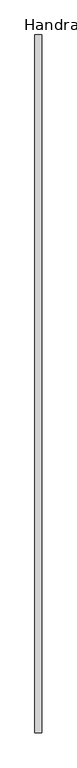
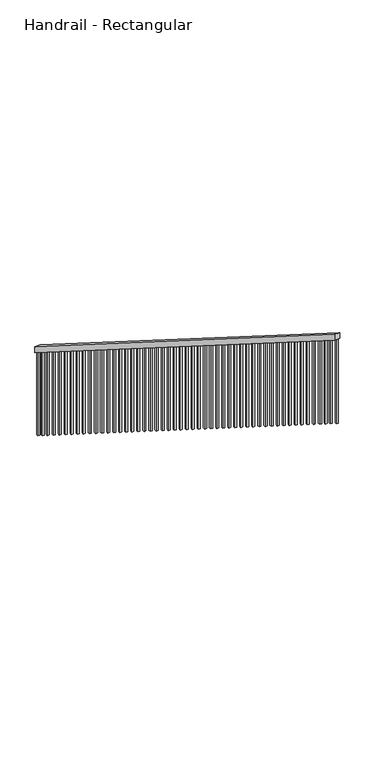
"""IFC4 building model written with IfcOpenShell, lengths in millimetres: railing geometry, Handrail - Rectangular."""

import ifcopenshell
import ifcopenshell.guid

model = None  # the IFC model being written
_history = None  # IfcOwnerHistory: only IFC2X3 demands one
_inside = {}  # id of a spatial element -> (the spatial element, [elements in it])
_under = {}  # id of a project, library or spatial element -> (it, [spatial elements below it])
_declared = {}  # id of a project -> (the project, [libraries it declares])
_typed = {}  # id of a type object -> (the type object, [elements of that type])
_made_of = {}  # id of a material, layer set ... -> (it, [elements and type objects made of it])


def new_model(schema):
    """Start an empty IFC model of exactly this schema.

    Asked for "IFC4X3", IfcOpenShell would pick the latest addendum, in which some entities
    have other attributes; the version numbers below select the first issue.
    IFC2X3 requires an IfcOwnerHistory on every rooted entity: one is made here for all.
    """
    global model, _history
    if schema == "IFC4X3":
        model = ifcopenshell.file(schema_version=(4, 3, 0, 0))
    else:
        model = ifcopenshell.file(schema=schema)
    _inside.clear()
    _under.clear()
    _declared.clear()
    _typed.clear()
    _made_of.clear()
    _history = None
    if model.schema == "IFC2X3":
        org = make("IfcOrganization", Name="unknown")
        user = make(
            "IfcPersonAndOrganization",
            ThePerson=make("IfcPerson", FamilyName="unknown"),
            TheOrganization=org,
        )
        app = make(
            "IfcApplication",
            ApplicationDeveloper=org,
            Version="unknown",
            ApplicationFullName="unknown",
            ApplicationIdentifier="unknown",
        )
        _history = make(
            "IfcOwnerHistory",
            OwningUser=user,
            OwningApplication=app,
            ChangeAction="ADDED",
            CreationDate=0,
        )
    return model


def make(cls, **values):
    """One entity of the class cls with the attributes given. An attribute that is None is left unset."""
    return model.create_entity(
        cls, **{name: value for name, value in values.items() if value is not None}
    )


def rooted(cls, **values):
    """An entity with a GlobalId (a new one), such as an element, a storey or a relation."""
    return make(cls, GlobalId=ifcopenshell.guid.new(), OwnerHistory=_history, **values)


def si_unit(unit_type, name, prefix=None):
    """IfcSIUnit, for example si_unit("LENGTHUNIT", "METRE", prefix="MILLI")."""
    return make("IfcSIUnit", UnitType=unit_type, Prefix=prefix, Name=name)


def assignment(units):
    """IfcUnitAssignment: the units of a project."""
    return None if units is None else make("IfcUnitAssignment", Units=units)


def point(xyz):
    """IfcCartesianPoint."""
    return None if xyz is None else make("IfcCartesianPoint", Coordinates=xyz)


def direction(xyz):
    """IfcDirection."""
    return None if xyz is None else make("IfcDirection", DirectionRatios=xyz)


def frame(location, z_axis=None, x_axis=None):
    """IfcAxis2Placement3D, a coordinate frame: its origin and axes. An axis left out is left unset."""
    return make(
        "IfcAxis2Placement3D",
        Location=point(location),
        Axis=direction(z_axis),
        RefDirection=direction(x_axis),
    )


def origin():
    """The frame at (0, 0, 0) with its axes left unset."""
    return frame((0.0, 0.0, 0.0))


def place(relative_to, where):
    """IfcLocalPlacement: puts the frame where relative to a parent placement (None: the world)."""
    return make(
        "IfcLocalPlacement", PlacementRelTo=relative_to, RelativePlacement=where
    )


def context(
    kind, dimensions, precision=None, world=None, true_north=None, identifier=None
):
    """IfcGeometricRepresentationContext, for example the 3D "Model" context."""
    return make(
        "IfcGeometricRepresentationContext",
        ContextIdentifier=identifier,
        ContextType=kind,
        CoordinateSpaceDimension=dimensions,
        Precision=precision,
        WorldCoordinateSystem=world,
        TrueNorth=true_north,
    )


def project(units=None, contexts=None):
    """IfcProject with its units and contexts."""
    return rooted(
        "IfcProject",
        Name="project",
        RepresentationContexts=contexts,
        UnitsInContext=assignment(units),
    )


def spatial(cls, under=None, at=None, **own):
    """A site, building, storey or space (cls), placed at a placement, below another one or the project."""
    s = rooted(cls, ObjectPlacement=at, **own)
    if under is not None:
        _under.setdefault(under.id(), (under, []))[1].append(s)
    return s


def polyline(points):
    """IfcPolyline through the points."""
    return make("IfcPolyline", Points=[point(p) for p in points])


def outline(outer, holes=None, kind="AREA"):
    """IfcArbitraryClosedProfileDef: a profile drawn as a closed curve; with holes, ...WithVoids."""
    if holes is None:
        return make("IfcArbitraryClosedProfileDef", ProfileType=kind, OuterCurve=outer)
    return make(
        "IfcArbitraryProfileDefWithVoids",
        ProfileType=kind,
        OuterCurve=outer,
        InnerCurves=holes,
    )


def extrude(swept, where, along, depth):
    """IfcExtrudedAreaSolid: the profile swept, set in the frame where, extruded along a direction by depth."""
    return make(
        "IfcExtrudedAreaSolid",
        SweptArea=swept,
        Position=where,
        ExtrudedDirection=direction(along),
        Depth=depth,
    )


def shape(context_of_items, identifier, shape_type, items):
    """IfcShapeRepresentation: the items that make up one representation, for example the "Body"."""
    return make(
        "IfcShapeRepresentation",
        ContextOfItems=context_of_items,
        RepresentationIdentifier=identifier,
        RepresentationType=shape_type,
        Items=items,
    )


def source(mapping_origin, context_of_items, identifier, shape_type, items):
    """IfcRepresentationMap: a shape defined once, which mapped items show again and again."""
    return make(
        "IfcRepresentationMap",
        MappingOrigin=mapping_origin,
        MappedRepresentation=shape(context_of_items, identifier, shape_type, items),
    )


def transform(
    local_origin,
    x_axis=None,
    y_axis=None,
    z_axis=None,
    scale=None,
    scale2=None,
    scale3=None,
    uniform=True,
):
    """IfcCartesianTransformationOperator3D, or its non-uniform kind. x_axis, y_axis, z_axis: its Axis1, 2, 3."""
    if uniform:
        return make(
            "IfcCartesianTransformationOperator3D",
            Axis1=direction(x_axis),
            Axis2=direction(y_axis),
            LocalOrigin=point(local_origin),
            Scale=scale,
            Axis3=direction(z_axis),
        )
    return make(
        "IfcCartesianTransformationOperator3DnonUniform",
        Axis1=direction(x_axis),
        Axis2=direction(y_axis),
        LocalOrigin=point(local_origin),
        Scale=scale,
        Axis3=direction(z_axis),
        Scale2=scale2,
        Scale3=scale3,
    )


def mapped(mapping_source, mapping_target):
    """IfcMappedItem: shows the shape of a source again, moved by a transform."""
    return make(
        "IfcMappedItem", MappingSource=mapping_source, MappingTarget=mapping_target
    )


def made_of(thing, what):
    """Note that an element or type object is made of a material, layer set ...; save() writes the relation."""
    if what is not None:
        _made_of.setdefault(what.id(), (what, []))[1].append(thing)
    return thing


def element(
    cls,
    number,
    at=None,
    inside=None,
    cuts=None,
    type_object=None,
    material=None,
    context=None,
    identifier="Body",
    shape_type=None,
    held_by="IfcProductDefinitionShape",
    body=None,
    shapes=None,
    **own,
):
    """One element of the class cls, such as IfcWall. Its Tag is "e" and its number.

    at: its placement. inside: the storey or other place that contains it. cuts: it is an
    opening in that element (IfcRelVoidsElement). A single representation is given by context,
    identifier, shape_type and body (its items); several are given by shapes. held_by: the class
    of the entity that holds the representations. save() writes the other relations.
    """
    e = rooted(cls, Tag="e%d" % number, ObjectPlacement=at, **own)
    if body is not None:
        shapes = [shape(context, identifier, shape_type, body)]
    if shapes is not None:
        e.Representation = make(held_by, Representations=shapes)
    if inside is not None:
        _inside.setdefault(inside.id(), (inside, []))[1].append(e)
    if cuts is not None:
        rooted(
            "IfcRelVoidsElement", RelatingBuildingElement=cuts, RelatedOpeningElement=e
        )
    if type_object is not None:
        _typed.setdefault(type_object.id(), (type_object, []))[1].append(e)
    return made_of(e, material)


def aggregate(whole, parts):
    """IfcRelAggregates: a whole, such as a stair, and the parts it consists of."""
    return rooted("IfcRelAggregates", RelatingObject=whole, RelatedObjects=parts)


def save(model, path):
    """Write the relations noted so far, then the file.

    IfcRelAggregates (storeys below a building ...), IfcRelContainedInSpatialStructure (elements
    in a storey), IfcRelDefinesByType, IfcRelAssociatesMaterial and IfcRelDeclares: one each for
    every whole, place, type object, material and project.
    """
    for whole, parts in _under.values():
        aggregate(whole, parts)
    for where, things in _inside.values():
        rooted(
            "IfcRelContainedInSpatialStructure",
            RelatedElements=things,
            RelatingStructure=where,
        )
    for kind, things in _typed.values():
        rooted("IfcRelDefinesByType", RelatedObjects=things, RelatingType=kind)
    for what, things in _made_of.values():
        rooted("IfcRelAssociatesMaterial", RelatedObjects=things, RelatingMaterial=what)
    for by, libraries in _declared.values():
        rooted("IfcRelDeclares", RelatingContext=by, RelatedDefinitions=libraries)
    model.write(path)


def handrail_rectangular_a4179571(model_context):
    return source(origin(), model_context, "Body", "SweptSolid", [
        extrude(outline(polyline([(56940.686508, -2261.9368421), (56940.686508, -2322.0204219), (51911.486508, 854.3164202), (51911.486508, 914.4), (56940.686508, -2261.9368421)])), frame((-4966.7747339, 0.0, 0.0), z_axis=(1.0, 0.0, 0.0), x_axis=(0.0, 1.0, 0.0)), (0.0, 0.0, 1.0), 50.8),
        extrude(outline(polyline([(51930.536508, -6.0157895), (51911.486508, -6.0157895), (51911.486508, 854.3164202), (51930.536508, 842.2848412), (51930.536508, -6.0157895)])), frame((-4950.8997339, 0.0, 0.0), z_axis=(1.0, 0.0, 0.0), x_axis=(0.0, 1.0, 0.0)), (0.0, 0.0, 1.0), 19.05),
        extrude(outline(polyline([(52032.136508, -70.1842105), (52013.086508, -70.1842105), (52013.086508, 790.1479991), (52032.136508, 778.1164202), (52032.136508, -70.1842105)])), frame((-4950.8997339, 0.0, 0.0), z_axis=(1.0, 0.0, 0.0), x_axis=(0.0, 1.0, 0.0)), (0.0, 0.0, 1.0), 19.05),
        extrude(outline(polyline([(52111.511508, -120.3157895), (52092.461508, -120.3157895), (52092.461508, 740.0164202), (52111.511508, 727.9848412), (52111.511508, -120.3157895)])), frame((-4950.8997339, 0.0, 0.0), z_axis=(1.0, 0.0, 0.0), x_axis=(0.0, 1.0, 0.0)), (0.0, 0.0, 1.0), 19.05),
        extrude(outline(polyline([(52209.936508, -182.4789474), (52190.886508, -182.4789474), (52190.886508, 677.8532623), (52209.936508, 665.8216833), (52209.936508, -182.4789474)])), frame((-4950.8997339, 0.0, 0.0), z_axis=(1.0, 0.0, 0.0), x_axis=(0.0, 1.0, 0.0)), (0.0, 0.0, 1.0), 19.05),
        extrude(outline(polyline([(52311.536508, -246.6473684), (52292.486508, -246.6473684), (52292.486508, 613.6848412), (52311.536508, 601.6532623), (52311.536508, -246.6473684)])), frame((-4950.8997339, 0.0, 0.0), z_axis=(1.0, 0.0, 0.0), x_axis=(0.0, 1.0, 0.0)), (0.0, 0.0, 1.0), 19.05),
        extrude(outline(polyline([(52413.136508, -310.8157895), (52394.086508, -310.8157895), (52394.086508, 549.5164202), (52413.136508, 537.4848412), (52413.136508, -310.8157895)])), frame((-4950.8997339, 0.0, 0.0), z_axis=(1.0, 0.0, 0.0), x_axis=(0.0, 1.0, 0.0)), (0.0, 0.0, 1.0), 19.05),
        extrude(outline(polyline([(52514.736508, -374.9842105), (52495.686508, -374.9842105), (52495.686508, 485.3479991), (52514.736508, 473.3164202), (52514.736508, -374.9842105)])), frame((-4950.8997339, 0.0, 0.0), z_axis=(1.0, 0.0, 0.0), x_axis=(0.0, 1.0, 0.0)), (0.0, 0.0, 1.0), 19.05),
        extrude(outline(polyline([(52616.336508, -439.1526316), (52597.286508, -439.1526316), (52597.286508, 421.1795781), (52616.336508, 409.1479991), (52616.336508, -439.1526316)])), frame((-4950.8997339, 0.0, 0.0), z_axis=(1.0, 0.0, 0.0), x_axis=(0.0, 1.0, 0.0)), (0.0, 0.0, 1.0), 19.05),
        extrude(outline(polyline([(52717.936508, -503.3210526), (52698.886508, -503.3210526), (52698.886508, 357.011157), (52717.936508, 344.9795781), (52717.936508, -503.3210526)])), frame((-4950.8997339, 0.0, 0.0), z_axis=(1.0, 0.0, 0.0), x_axis=(0.0, 1.0, 0.0)), (0.0, 0.0, 1.0), 19.05),
        extrude(outline(polyline([(52819.536508, -567.4894737), (52800.486508, -567.4894737), (52800.486508, 292.842736), (52819.536508, 280.811157), (52819.536508, -567.4894737)])), frame((-4950.8997339, 0.0, 0.0), z_axis=(1.0, 0.0, 0.0), x_axis=(0.0, 1.0, 0.0)), (0.0, 0.0, 1.0), 19.05),
        extrude(outline(polyline([(52921.136508, -631.6578947), (52902.086508, -631.6578947), (52902.086508, 228.6743149), (52921.136508, 216.642736), (52921.136508, -631.6578947)])), frame((-4950.8997339, 0.0, 0.0), z_axis=(1.0, 0.0, 0.0), x_axis=(0.0, 1.0, 0.0)), (0.0, 0.0, 1.0), 19.05),
        extrude(outline(polyline([(53022.736508, -695.8263158), (53003.686508, -695.8263158), (53003.686508, 164.5058939), (53022.736508, 152.4743149), (53022.736508, -695.8263158)])), frame((-4950.8997339, 0.0, 0.0), z_axis=(1.0, 0.0, 0.0), x_axis=(0.0, 1.0, 0.0)), (0.0, 0.0, 1.0), 19.05),
        extrude(outline(polyline([(53124.336508, -759.9947368), (53105.286508, -759.9947368), (53105.286508, 100.3374728), (53124.336508, 88.3058939), (53124.336508, -759.9947368)])), frame((-4950.8997339, 0.0, 0.0), z_axis=(1.0, 0.0, 0.0), x_axis=(0.0, 1.0, 0.0)), (0.0, 0.0, 1.0), 19.05),
        extrude(outline(polyline([(53225.936508, -824.1631579), (53206.886508, -824.1631579), (53206.886508, 36.1690517), (53225.936508, 24.1374728), (53225.936508, -824.1631579)])), frame((-4950.8997339, 0.0, 0.0), z_axis=(1.0, 0.0, 0.0), x_axis=(0.0, 1.0, 0.0)), (0.0, 0.0, 1.0), 19.05),
        extrude(outline(polyline([(53327.536508, -888.3315789), (53308.486508, -888.3315789), (53308.486508, -27.9993693), (53327.536508, -40.0309483), (53327.536508, -888.3315789)])), frame((-4950.8997339, 0.0, 0.0), z_axis=(1.0, 0.0, 0.0), x_axis=(0.0, 1.0, 0.0)), (0.0, 0.0, 1.0), 19.05),
        extrude(outline(polyline([(53429.136508, -952.5), (53410.086508, -952.5), (53410.086508, -92.1677904), (53429.136508, -104.1993693), (53429.136508, -952.5)])), frame((-4950.8997339, 0.0, 0.0), z_axis=(1.0, 0.0, 0.0), x_axis=(0.0, 1.0, 0.0)), (0.0, 0.0, 1.0), 19.05),
        extrude(outline(polyline([(53530.736508, -1016.6684211), (53511.686508, -1016.6684211), (53511.686508, -156.3362114), (53530.736508, -168.3677904), (53530.736508, -1016.6684211)])), frame((-4950.8997339, 0.0, 0.0), z_axis=(1.0, 0.0, 0.0), x_axis=(0.0, 1.0, 0.0)), (0.0, 0.0, 1.0), 19.05),
        extrude(outline(polyline([(53632.336508, -1080.8368421), (53613.286508, -1080.8368421), (53613.286508, -220.5046325), (53632.336508, -232.5362114), (53632.336508, -1080.8368421)])), frame((-4950.8997339, 0.0, 0.0), z_axis=(1.0, 0.0, 0.0), x_axis=(0.0, 1.0, 0.0)), (0.0, 0.0, 1.0), 19.05),
        extrude(outline(polyline([(53733.936508, -1145.0052632), (53714.886508, -1145.0052632), (53714.886508, -284.6730535), (53733.936508, -296.7046325), (53733.936508, -1145.0052632)])), frame((-4950.8997339, 0.0, 0.0), z_axis=(1.0, 0.0, 0.0), x_axis=(0.0, 1.0, 0.0)), (0.0, 0.0, 1.0), 19.05),
        extrude(outline(polyline([(53835.536508, -1209.1736842), (53816.486508, -1209.1736842), (53816.486508, -348.8414746), (53835.536508, -360.8730535), (53835.536508, -1209.1736842)])), frame((-4950.8997339, 0.0, 0.0), z_axis=(1.0, 0.0, 0.0), x_axis=(0.0, 1.0, 0.0)), (0.0, 0.0, 1.0), 19.05),
        extrude(outline(polyline([(53937.136508, -1273.3421053), (53918.086508, -1273.3421053), (53918.086508, -413.0098956), (53937.136508, -425.0414746), (53937.136508, -1273.3421053)])), frame((-4950.8997339, 0.0, 0.0), z_axis=(1.0, 0.0, 0.0), x_axis=(0.0, 1.0, 0.0)), (0.0, 0.0, 1.0), 19.05),
        extrude(outline(polyline([(54038.736508, -1337.5105263), (54019.686508, -1337.5105263), (54019.686508, -477.1783167), (54038.736508, -489.2098956), (54038.736508, -1337.5105263)])), frame((-4950.8997339, 0.0, 0.0), z_axis=(1.0, 0.0, 0.0), x_axis=(0.0, 1.0, 0.0)), (0.0, 0.0, 1.0), 19.05),
        extrude(outline(polyline([(54140.336508, -1401.6789474), (54121.286508, -1401.6789474), (54121.286508, -541.3467377), (54140.336508, -553.3783167), (54140.336508, -1401.6789474)])), frame((-4950.8997339, 0.0, 0.0), z_axis=(1.0, 0.0, 0.0), x_axis=(0.0, 1.0, 0.0)), (0.0, 0.0, 1.0), 19.05),
        extrude(outline(polyline([(54241.936508, -1465.8473684), (54222.886508, -1465.8473684), (54222.886508, -605.5151588), (54241.936508, -617.5467377), (54241.936508, -1465.8473684)])), frame((-4950.8997339, 0.0, 0.0), z_axis=(1.0, 0.0, 0.0), x_axis=(0.0, 1.0, 0.0)), (0.0, 0.0, 1.0), 19.05),
        extrude(outline(polyline([(54343.536508, -1530.0157895), (54324.486508, -1530.0157895), (54324.486508, -669.6835798), (54343.536508, -681.7151588), (54343.536508, -1530.0157895)])), frame((-4950.8997339, 0.0, 0.0), z_axis=(1.0, 0.0, 0.0), x_axis=(0.0, 1.0, 0.0)), (0.0, 0.0, 1.0), 19.05),
        extrude(outline(polyline([(54445.136508, -1594.1842105), (54426.086508, -1594.1842105), (54426.086508, -733.8520009), (54445.136508, -745.8835798), (54445.136508, -1594.1842105)])), frame((-4950.8997339, 0.0, 0.0), z_axis=(1.0, 0.0, 0.0), x_axis=(0.0, 1.0, 0.0)), (0.0, 0.0, 1.0), 19.05),
        extrude(outline(polyline([(54546.736508, -1658.3526316), (54527.686508, -1658.3526316), (54527.686508, -798.0204219), (54546.736508, -810.0520009), (54546.736508, -1658.3526316)])), frame((-4950.8997339, 0.0, 0.0), z_axis=(1.0, 0.0, 0.0), x_axis=(0.0, 1.0, 0.0)), (0.0, 0.0, 1.0), 19.05),
        extrude(outline(polyline([(54648.336508, -1722.5210526), (54629.286508, -1722.5210526), (54629.286508, -862.188843), (54648.336508, -874.2204219), (54648.336508, -1722.5210526)])), frame((-4950.8997339, 0.0, 0.0), z_axis=(1.0, 0.0, 0.0), x_axis=(0.0, 1.0, 0.0)), (0.0, 0.0, 1.0), 19.05),
        extrude(outline(polyline([(54749.936508, -1786.6894737), (54730.886508, -1786.6894737), (54730.886508, -926.357264), (54749.936508, -938.388843), (54749.936508, -1786.6894737)])), frame((-4950.8997339, 0.0, 0.0), z_axis=(1.0, 0.0, 0.0), x_axis=(0.0, 1.0, 0.0)), (0.0, 0.0, 1.0), 19.05),
        extrude(outline(polyline([(54851.536508, -1850.8578947), (54832.486508, -1850.8578947), (54832.486508, -990.5256851), (54851.536508, -1002.557264), (54851.536508, -1850.8578947)])), frame((-4950.8997339, 0.0, 0.0), z_axis=(1.0, 0.0, 0.0), x_axis=(0.0, 1.0, 0.0)), (0.0, 0.0, 1.0), 19.05),
        extrude(outline(polyline([(54953.136508, -1915.0263158), (54934.086508, -1915.0263158), (54934.086508, -1054.6941061), (54953.136508, -1066.7256851), (54953.136508, -1915.0263158)])), frame((-4950.8997339, 0.0, 0.0), z_axis=(1.0, 0.0, 0.0), x_axis=(0.0, 1.0, 0.0)), (0.0, 0.0, 1.0), 19.05),
        extrude(outline(polyline([(55054.736508, -1979.1947368), (55035.686508, -1979.1947368), (55035.686508, -1118.8625272), (55054.736508, -1130.8941061), (55054.736508, -1979.1947368)])), frame((-4950.8997339, 0.0, 0.0), z_axis=(1.0, 0.0, 0.0), x_axis=(0.0, 1.0, 0.0)), (0.0, 0.0, 1.0), 19.05),
        extrude(outline(polyline([(55156.336508, -2043.3631579), (55137.286508, -2043.3631579), (55137.286508, -1183.0309483), (55156.336508, -1195.0625272), (55156.336508, -2043.3631579)])), frame((-4950.8997339, 0.0, 0.0), z_axis=(1.0, 0.0, 0.0), x_axis=(0.0, 1.0, 0.0)), (0.0, 0.0, 1.0), 19.05),
        extrude(outline(polyline([(55257.936508, -2107.5315789), (55238.886508, -2107.5315789), (55238.886508, -1247.1993693), (55257.936508, -1259.2309483), (55257.936508, -2107.5315789)])), frame((-4950.8997339, 0.0, 0.0), z_axis=(1.0, 0.0, 0.0), x_axis=(0.0, 1.0, 0.0)), (0.0, 0.0, 1.0), 19.05),
        extrude(outline(polyline([(55359.536508, -2171.7), (55340.486508, -2171.7), (55340.486508, -1311.3677904), (55359.536508, -1323.3993693), (55359.536508, -2171.7)])), frame((-4950.8997339, 0.0, 0.0), z_axis=(1.0, 0.0, 0.0), x_axis=(0.0, 1.0, 0.0)), (0.0, 0.0, 1.0), 19.05),
        extrude(outline(polyline([(55461.136508, -2235.8684211), (55442.086508, -2235.8684211), (55442.086508, -1375.5362114), (55461.136508, -1387.5677904), (55461.136508, -2235.8684211)])), frame((-4950.8997339, 0.0, 0.0), z_axis=(1.0, 0.0, 0.0), x_axis=(0.0, 1.0, 0.0)), (0.0, 0.0, 1.0), 19.05),
        extrude(outline(polyline([(55562.736508, -2300.0368421), (55543.686508, -2300.0368421), (55543.686508, -1439.7046325), (55562.736508, -1451.7362114), (55562.736508, -2300.0368421)])), frame((-4950.8997339, 0.0, 0.0), z_axis=(1.0, 0.0, 0.0), x_axis=(0.0, 1.0, 0.0)), (0.0, 0.0, 1.0), 19.05),
        extrude(outline(polyline([(55664.336508, -2364.2052632), (55645.286508, -2364.2052632), (55645.286508, -1503.8730535), (55664.336508, -1515.9046325), (55664.336508, -2364.2052632)])), frame((-4950.8997339, 0.0, 0.0), z_axis=(1.0, 0.0, 0.0), x_axis=(0.0, 1.0, 0.0)), (0.0, 0.0, 1.0), 19.05),
        extrude(outline(polyline([(55765.936508, -2428.3736842), (55746.886508, -2428.3736842), (55746.886508, -1568.0414746), (55765.936508, -1580.0730535), (55765.936508, -2428.3736842)])), frame((-4950.8997339, 0.0, 0.0), z_axis=(1.0, 0.0, 0.0), x_axis=(0.0, 1.0, 0.0)), (0.0, 0.0, 1.0), 19.05),
        extrude(outline(polyline([(55867.536508, -2492.5421053), (55848.486508, -2492.5421053), (55848.486508, -1632.2098956), (55867.536508, -1644.2414746), (55867.536508, -2492.5421053)])), frame((-4950.8997339, 0.0, 0.0), z_axis=(1.0, 0.0, 0.0), x_axis=(0.0, 1.0, 0.0)), (0.0, 0.0, 1.0), 19.05),
        extrude(outline(polyline([(55969.136508, -2556.7105263), (55950.086508, -2556.7105263), (55950.086508, -1696.3783167), (55969.136508, -1708.4098956), (55969.136508, -2556.7105263)])), frame((-4950.8997339, 0.0, 0.0), z_axis=(1.0, 0.0, 0.0), x_axis=(0.0, 1.0, 0.0)), (0.0, 0.0, 1.0), 19.05),
        extrude(outline(polyline([(56070.736508, -2620.8789474), (56051.686508, -2620.8789474), (56051.686508, -1760.5467377), (56070.736508, -1772.5783167), (56070.736508, -2620.8789474)])), frame((-4950.8997339, 0.0, 0.0), z_axis=(1.0, 0.0, 0.0), x_axis=(0.0, 1.0, 0.0)), (0.0, 0.0, 1.0), 19.05),
        extrude(outline(polyline([(56172.336508, -2685.0473684), (56153.286508, -2685.0473684), (56153.286508, -1824.7151588), (56172.336508, -1836.7467377), (56172.336508, -2685.0473684)])), frame((-4950.8997339, 0.0, 0.0), z_axis=(1.0, 0.0, 0.0), x_axis=(0.0, 1.0, 0.0)), (0.0, 0.0, 1.0), 19.05),
        extrude(outline(polyline([(56273.936508, -2749.2157895), (56254.886508, -2749.2157895), (56254.886508, -1888.8835798), (56273.936508, -1900.9151588), (56273.936508, -2749.2157895)])), frame((-4950.8997339, 0.0, 0.0), z_axis=(1.0, 0.0, 0.0), x_axis=(0.0, 1.0, 0.0)), (0.0, 0.0, 1.0), 19.05),
        extrude(outline(polyline([(56375.536508, -2813.3842105), (56356.486508, -2813.3842105), (56356.486508, -1953.0520009), (56375.536508, -1965.0835798), (56375.536508, -2813.3842105)])), frame((-4950.8997339, 0.0, 0.0), z_axis=(1.0, 0.0, 0.0), x_axis=(0.0, 1.0, 0.0)), (0.0, 0.0, 1.0), 19.05),
        extrude(outline(polyline([(56477.136508, -2877.5526316), (56458.086508, -2877.5526316), (56458.086508, -2017.2204219), (56477.136508, -2029.2520009), (56477.136508, -2877.5526316)])), frame((-4950.8997339, 0.0, 0.0), z_axis=(1.0, 0.0, 0.0), x_axis=(0.0, 1.0, 0.0)), (0.0, 0.0, 1.0), 19.05),
        extrude(outline(polyline([(56578.736508, -2941.7210526), (56559.686508, -2941.7210526), (56559.686508, -2081.388843), (56578.736508, -2093.4204219), (56578.736508, -2941.7210526)])), frame((-4950.8997339, 0.0, 0.0), z_axis=(1.0, 0.0, 0.0), x_axis=(0.0, 1.0, 0.0)), (0.0, 0.0, 1.0), 19.05),
        extrude(outline(polyline([(56680.336508, -3005.8894737), (56661.286508, -3005.8894737), (56661.286508, -2145.557264), (56680.336508, -2157.588843), (56680.336508, -3005.8894737)])), frame((-4950.8997339, 0.0, 0.0), z_axis=(1.0, 0.0, 0.0), x_axis=(0.0, 1.0, 0.0)), (0.0, 0.0, 1.0), 19.05),
        extrude(outline(polyline([(56781.936508, -3070.0578947), (56762.886508, -3070.0578947), (56762.886508, -2209.7256851), (56781.936508, -2221.757264), (56781.936508, -3070.0578947)])), frame((-4950.8997339, 0.0, 0.0), z_axis=(1.0, 0.0, 0.0), x_axis=(0.0, 1.0, 0.0)), (0.0, 0.0, 1.0), 19.05),
        extrude(outline(polyline([(56861.311508, -3120.1894737), (56842.261508, -3120.1894737), (56842.261508, -2259.857264), (56861.311508, -2271.888843), (56861.311508, -3120.1894737)])), frame((-4950.8997339, 0.0, 0.0), z_axis=(1.0, 0.0, 0.0), x_axis=(0.0, 1.0, 0.0)), (0.0, 0.0, 1.0), 19.05),
        extrude(outline(polyline([(56940.686508, -3170.3210526), (56921.636508, -3170.3210526), (56921.636508, -2309.988843), (56940.686508, -2322.0204219), (56940.686508, -3170.3210526)])), frame((-4950.8997339, 0.0, 0.0), z_axis=(1.0, 0.0, 0.0), x_axis=(0.0, 1.0, 0.0)), (0.0, 0.0, 1.0), 19.05),
    ])


if __name__ == "__main__":
    model = new_model("IFC4")
    model_context = context("Model", 3, world=origin())
    ifc_project = project(units=[si_unit("LENGTHUNIT", "METRE", prefix="MILLI")], contexts=[model_context])
    site = spatial("IfcSite", under=ifc_project)
    building = spatial("IfcBuilding", under=site)
    placement = place(None, origin())
    handrail_rectangular_shape = handrail_rectangular_a4179571(model_context)
    element("IfcRailing", 1, ObjectType="Handrail - Rectangular", at=placement, inside=building, context=model_context, shape_type="MappedRepresentation", body=[
        mapped(handrail_rectangular_shape, transform((0.0, 0.0, 0.0), x_axis=(1.0, 0.0, 0.0), y_axis=(0.0, 1.0, 0.0), z_axis=(0.0, 0.0, 1.0))),
    ])
    save(model, "model.ifc")
